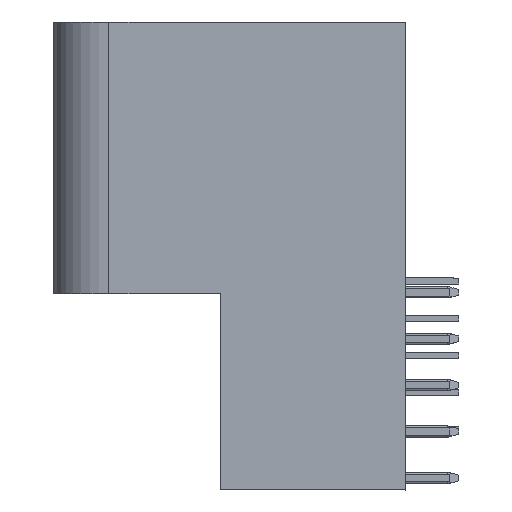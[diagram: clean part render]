
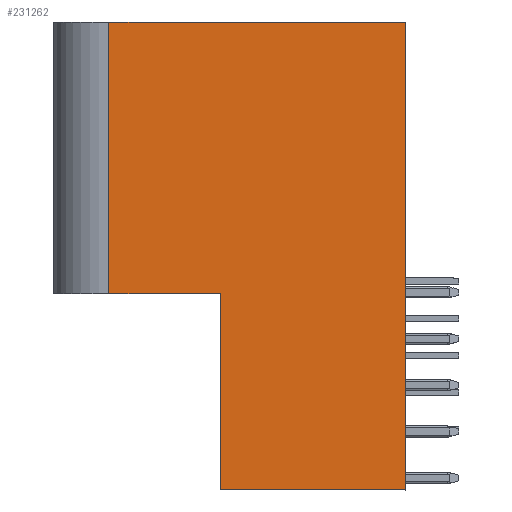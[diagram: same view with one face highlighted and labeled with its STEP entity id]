
A CAD part, left-side view. The second image highlights one B-rep face of the part: STEP entity #231262.
In plain terms, the highlighted planar face has unit normal (-1, 0, 0).
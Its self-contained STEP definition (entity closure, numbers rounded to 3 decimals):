
#91284 = FACE_OUTER_BOUND ( 'NONE', #239957, .T. ) ;
#91289 = PLANE ( 'NONE',  #340705 ) ;
#91386 = CARTESIAN_POINT ( 'NONE',  ( -31.427, -1.035, -15.95 ) ) ;
#91390 = DIRECTION ( 'NONE',  ( 1., 0., 0. ) ) ;
#91394 = DIRECTION ( 'NONE',  ( 0., 0., -1. ) ) ;
#95695 = EDGE_CURVE ( 'NONE', #159472, #159417, #157261, .T. ) ;
#96249 = EDGE_CURVE ( 'NONE', #159417, #159531, #341450, .T. ) ;
#96358 = EDGE_CURVE ( 'NONE', #159490, #159472, #341933, .T. ) ;
#96456 = EDGE_CURVE ( 'NONE', #159578, #159490, #342462, .T. ) ;
#96469 = EDGE_CURVE ( 'NONE', #159531, #159548, #342485, .T. ) ;
#96480 = EDGE_CURVE ( 'NONE', #159578, #159548, #342549, .T. ) ;
#157261 = LINE ( 'NONE', #157373, #260146 ) ;
#157373 = CARTESIAN_POINT ( 'NONE',  ( -31.427, -1.035, -5.38 ) ) ;
#157384 = DIRECTION ( 'NONE',  ( 0., 1., 0. ) ) ;
#159417 = VERTEX_POINT ( 'NONE', #352579 ) ;
#159472 = VERTEX_POINT ( 'NONE', #352622 ) ;
#159490 = VERTEX_POINT ( 'NONE', #352632 ) ;
#159531 = VERTEX_POINT ( 'NONE', #352659 ) ;
#159548 = VERTEX_POINT ( 'NONE', #352672 ) ;
#159578 = VERTEX_POINT ( 'NONE', #352694 ) ;
#231262 = ADVANCED_FACE ( 'NONE', ( #91284 ), #91289, .F. ) ;
#239957 = EDGE_LOOP ( 'NONE', ( #240202, #240206, #240210, #240213, #240216, #240221 ) ) ;
#240202 = ORIENTED_EDGE ( 'NONE', *, *, #96469, .F. ) ;
#240206 = ORIENTED_EDGE ( 'NONE', *, *, #96249, .F. ) ;
#240210 = ORIENTED_EDGE ( 'NONE', *, *, #95695, .F. ) ;
#240213 = ORIENTED_EDGE ( 'NONE', *, *, #96358, .F. ) ;
#240216 = ORIENTED_EDGE ( 'NONE', *, *, #96456, .F. ) ;
#240221 = ORIENTED_EDGE ( 'NONE', *, *, #96480, .T. ) ;
#260146 = VECTOR ( 'NONE', #157384, 1000. ) ;
#260799 = VECTOR ( 'NONE', #341454, 1000. ) ;
#260916 = VECTOR ( 'NONE', #341943, 1000. ) ;
#261033 = VECTOR ( 'NONE', #342472, 1000. ) ;
#261040 = VECTOR ( 'NONE', #342514, 1000. ) ;
#261050 = VECTOR ( 'NONE', #342555, 1000. ) ;
#340705 = AXIS2_PLACEMENT_3D ( 'NONE', #91386, #91390, #91394 ) ;
#341450 = LINE ( 'NONE', #341453, #260799 ) ;
#341453 = CARTESIAN_POINT ( 'NONE',  ( -31.427, 14.965, -15.95 ) ) ;
#341454 = DIRECTION ( 'NONE',  ( 0., 0., 1. ) ) ;
#341933 = LINE ( 'NONE', #341940, #260916 ) ;
#341940 = CARTESIAN_POINT ( 'NONE',  ( -31.427, 8.965, 9.27 ) ) ;
#341943 = DIRECTION ( 'NONE',  ( 0., 0., 1. ) ) ;
#342462 = LINE ( 'NONE', #342469, #261033 ) ;
#342469 = CARTESIAN_POINT ( 'NONE',  ( -31.427, -1.035, -15.95 ) ) ;
#342472 = DIRECTION ( 'NONE',  ( 0., 1., 0. ) ) ;
#342485 = LINE ( 'NONE', #342505, #261040 ) ;
#342505 = CARTESIAN_POINT ( 'NONE',  ( -31.427, -1.035, 9.27 ) ) ;
#342514 = DIRECTION ( 'NONE',  ( 0., -1., 0. ) ) ;
#342549 = LINE ( 'NONE', #342553, #261050 ) ;
#342553 = CARTESIAN_POINT ( 'NONE',  ( -31.427, -1.035, -15.95 ) ) ;
#342555 = DIRECTION ( 'NONE',  ( 0., 0., 1. ) ) ;
#352579 = CARTESIAN_POINT ( 'NONE',  ( -31.427, 14.965, -5.38 ) ) ;
#352622 = CARTESIAN_POINT ( 'NONE',  ( -31.427, 8.965, -5.38 ) ) ;
#352632 = CARTESIAN_POINT ( 'NONE',  ( -31.427, 8.965, -15.95 ) ) ;
#352659 = CARTESIAN_POINT ( 'NONE',  ( -31.427, 14.965, 9.27 ) ) ;
#352672 = CARTESIAN_POINT ( 'NONE',  ( -31.427, -1.035, 9.27 ) ) ;
#352694 = CARTESIAN_POINT ( 'NONE',  ( -31.427, -1.035, -15.95 ) ) ;
